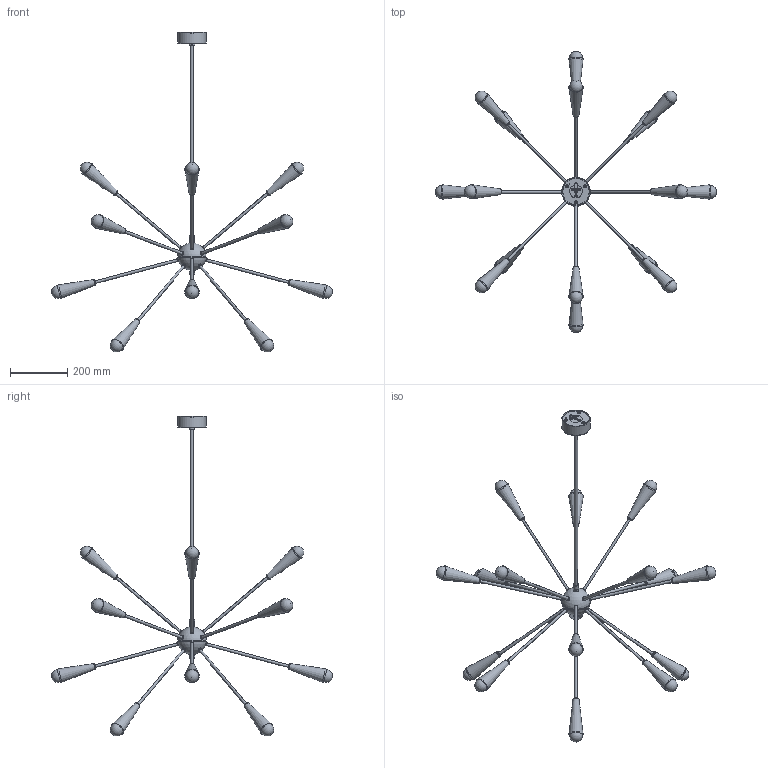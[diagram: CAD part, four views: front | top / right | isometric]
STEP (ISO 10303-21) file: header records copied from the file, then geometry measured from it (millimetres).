
FILE_DESCRIPTION(/* description */ ('Unknown'),/* implementation_level */ '2;1');
FILE_NAME(/* name */ '9590',/* time_stamp */ '2021-05-07T08:59:24+02:00',/* author */ ('Unknown'),/* organization */ ('Unknown'),/* preprocessor_version */ 'ST-DEVELOPER v16.7',/* originating_system */ 'DEX',/* authorisation */ $);
FILE_SCHEMA (('AUTOMOTIVE_DESIGN {1 0 10303 214 3 1 1}'));
Length unit declared in the file: millimetre
Products named in the file (20): 9590-9591-9592; 151001695012; 155000721006; R2181-1; F1215-5; 210000077984; 152000377995; 152000377995_01; 152000377995_02; R2179-1; 067000120352; 131000162006; 011000149000; 152000392151; G1333-8; 155000728006; 152000393006; 131000172006; 152000394006; 155000729006
Assembly tree (100 placements, depth 3):
  9590-9591-9592
    151001695012
    155000721006
    R2181-1  x2
    F1215-5  x3
    210000077984  x3
    152000377995
      152000377995_01
      152000377995_02
    R2179-1
    067000120352
    131000162006
    011000149000  x16
    152000392151  x16
    G1333-8  x32
    155000728006
    152000393006
    131000172006  x16
    152000394006
    155000729006
Bounding box: 981.63 x 981.63 x 1116.45 mm (x, y, z)
Volume: 1505760.8 mm3; surface area: 1049400.3 mm2
Topology: 99 solids, 99 shells, 1028 faces, 2282 edges, 1485 vertices
Faces by surface type: plane 478, cylinder 247, cone 136, torus 79, bspline 48, sphere 40
Full cylindrical faces by diameter (mm): 2.459 x3, 2.6 x1, 3 x4, 3.242 x3, 4 x3, 4.5 x6, 7 x16, 8 x3, 8.917 x3, 9.153 x32, 9.41 x1, 10 x48, 10.5 x33, 11.83 x2, 11.836 x2, 13 x35, 13.01 x1, 13.5 x2, 16.5 x2, 17 x16, 18 x3, 24 x1, 92 x1, 97.6 x1, 100 x1
Entity records: 10073 total; most frequent: CARTESIAN_POINT 2142, DIRECTION 1501, ORIENTED_EDGE 986, AXIS2_PLACEMENT_3D 679, FACE_BOUND 502, EDGE_LOOP 499, EDGE_CURVE 493, VERTEX_POINT 391
